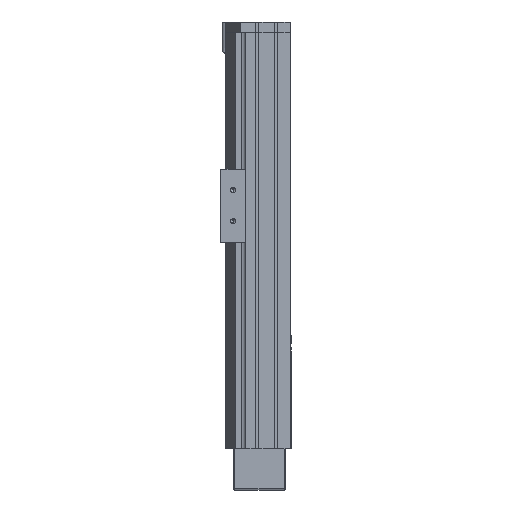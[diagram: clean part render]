
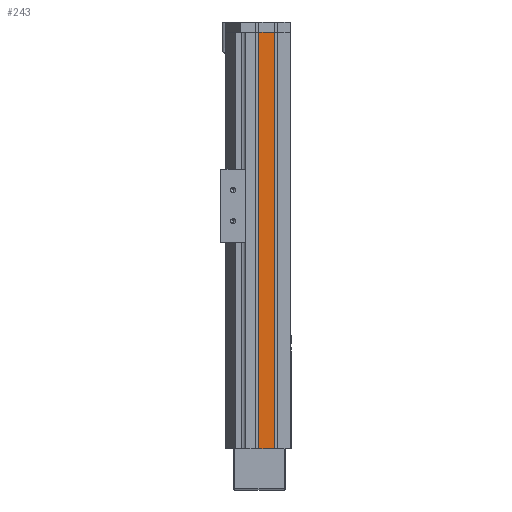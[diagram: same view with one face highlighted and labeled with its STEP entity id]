
A CAD part, left-side view. The second image highlights one B-rep face of the part: STEP entity #243.
In plain terms, the highlighted planar face has unit normal (-1, 0, 0).
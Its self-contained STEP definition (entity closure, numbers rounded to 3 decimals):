
#206 = EDGE_CURVE ( 'NONE', #225, #239, #2387, .T. ) ;
#210 = ORIENTED_EDGE ( 'NONE', *, *, #206, .T. ) ;
#223 = EDGE_CURVE ( 'NONE', #230, #225, #2420, .T. ) ;
#225 = VERTEX_POINT ( 'NONE', #2422 ) ;
#227 = VERTEX_POINT ( 'NONE', #2446 ) ;
#228 = EDGE_LOOP ( 'NONE', ( #240, #245, #242, #210 ) ) ;
#230 = VERTEX_POINT ( 'NONE', #2471 ) ;
#239 = VERTEX_POINT ( 'NONE', #2463 ) ;
#240 = ORIENTED_EDGE ( 'NONE', *, *, #241, .F. ) ;
#241 = EDGE_CURVE ( 'NONE', #227, #239, #2461, .T. ) ;
#242 = ORIENTED_EDGE ( 'NONE', *, *, #223, .T. ) ;
#243 = ADVANCED_FACE ( 'NONE', ( #2467 ), #2462, .F. ) ;
#244 = EDGE_CURVE ( 'NONE', #230, #227, #2458, .T. ) ;
#245 = ORIENTED_EDGE ( 'NONE', *, *, #244, .F. ) ;
#2387 = LINE ( 'NONE', #2448, #2447 ) ;
#2419 = CARTESIAN_POINT ( 'NONE',  ( -50., 30., 1400. ) ) ;
#2420 = LINE ( 'NONE', #2419, #2475 ) ;
#2422 = CARTESIAN_POINT ( 'NONE',  ( -50., 30., 0. ) ) ;
#2445 = DIRECTION ( 'NONE',  ( 0., -1., 0. ) ) ;
#2446 = CARTESIAN_POINT ( 'NONE',  ( -50., 15.5, 400. ) ) ;
#2447 = VECTOR ( 'NONE', #2445, 1000. ) ;
#2448 = CARTESIAN_POINT ( 'NONE',  ( -50., 15.5, 0. ) ) ;
#2450 = DIRECTION ( 'NONE',  ( 0., 0., -1. ) ) ;
#2451 = DIRECTION ( 'NONE',  ( 1., 0., 0. ) ) ;
#2452 = CARTESIAN_POINT ( 'NONE',  ( -50., 15.5, 1400. ) ) ;
#2454 = AXIS2_PLACEMENT_3D ( 'NONE', #2452, #2451, #2450 ) ;
#2455 = DIRECTION ( 'NONE',  ( 0., 0., -1. ) ) ;
#2456 = VECTOR ( 'NONE', #2455, 1000. ) ;
#2457 = CARTESIAN_POINT ( 'NONE',  ( -50., 15.5, 1400. ) ) ;
#2458 = LINE ( 'NONE', #2506, #2505 ) ;
#2461 = LINE ( 'NONE', #2457, #2456 ) ;
#2462 = PLANE ( 'NONE',  #2454 ) ;
#2463 = CARTESIAN_POINT ( 'NONE',  ( -50., 15.5, 0. ) ) ;
#2467 = FACE_OUTER_BOUND ( 'NONE', #228, .T. ) ;
#2471 = CARTESIAN_POINT ( 'NONE',  ( -50., 30., 400. ) ) ;
#2474 = DIRECTION ( 'NONE',  ( 0., 0., -1. ) ) ;
#2475 = VECTOR ( 'NONE', #2474, 1000. ) ;
#2504 = DIRECTION ( 'NONE',  ( 0., -1., 0. ) ) ;
#2505 = VECTOR ( 'NONE', #2504, 1000. ) ;
#2506 = CARTESIAN_POINT ( 'NONE',  ( -50., 30., 400. ) ) ;
